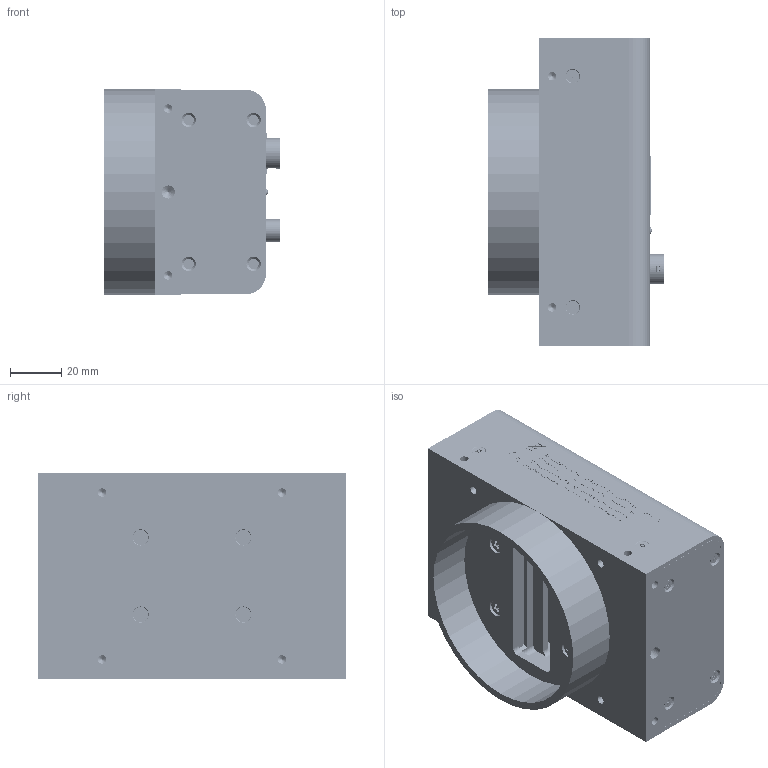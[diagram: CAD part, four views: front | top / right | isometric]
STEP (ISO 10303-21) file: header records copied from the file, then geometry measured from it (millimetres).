
FILE_DESCRIPTION (( 'STEP AP214' ), '1' );
FILE_NAME ('C7-5149-00-43／RMSL8K12GE／外観モデル.STEP', '2019-04-16T03:04:42', ( '' ), ( '' ), 'SwSTEP 2.0', 'SolidWorks 2016', '' );
FILE_SCHEMA (( 'AUTOMOTIVE_DESIGN' ));
Length unit declared in the file: millimetre
Products named in the file (42): 基板^C5-1043-01-42／XCM80125SHGIG用中継基板_PCB-XCM80125SHGIG-C00#F; C5-1043-01-42／XCM80125SHGIG用中継基板_PCB-XCM80125SHGIG-C00#F; ナット^C5-5180-00-43_12／コネクタ_HR10G-10R-12PB; C5-5178-00-43／スルーホールタップ_TH-0.8-5.0-M2.6; 基板^C5-1038-02-37／XCM20GIG用端子基板_PCB-XCM20GIG-T01#F-XCM20GIG; C5-5020-00-40_06／サラネジ M2X06 SUS_SFBJ2-6; C5-5180-00-43_12／コネクタ_HR10G-10R-12PB; C5-5145-00-43／CMOS 8k Line B&W ImageSensor_DR8K7_Invar_B&W_BM_V5.0; C5-5086-00-43_07／スペーサ(六角)_BSB-2607E; C4-1058-00-42／フロントパネル; 基板^C5-1072-00-42／XCM20SHGIG用ﾒｲﾝ基板_PCB-XCM20SHGIG-M00#F-XCM20SHGIG; C5-5176-00-43／2mmﾋﾟｯﾁ・ﾚｾﾌﾟﾀｸﾙ_DF3A-2P-2DSA; C5-5094-00-43_6／コネクタ_HR10G-7R-6PB; C5-5066-00-44／コネクタ_54477-1208; C5-5173-00-43／ﾊﾟﾙｽﾄﾗﾝｽ内蔵RJ45ｺﾈｸﾀ_V890-1AX1-A1; C5-5177-00-43／0.8mmﾋﾟｯﾁ基板対基板ｺﾈｸﾀ_FX6-20S-0.8SV; C5-5091-00-43_10／コネクタ_DF11-10DP-2DS; コネクタ^C5-5094-00-43_6／コネクタ_HR10G-7R-6PB; C4-1098-00-41／放熱板; ナット^C5-5094-00-43_6／コネクタ_HR10G-7R-6PB; C5-5172-00-43／0.8mmﾋﾟｯﾁ基板対基板ｺﾈｸﾀ_FX6-20P-0.8SV2; コネクタ^C5-5180-00-43_12／コネクタ_HR10G-10R-12PB; 菊座^C5-5180-00-43_12／コネクタ_HR10G-10R-12PB; C4-1042-02-30／カメラ鏡筒; C5-1072-00-42乛XCM20SHGIG梡也輮顢耞PCB-XCM20SHGIG-M00#F-XCM20SHGIG; C5-5012-00-40_06／座付きなべ頭小ねじ（P=4) M2.6X06 SUS_CSPPNZP-SUS-M2.6-6; C5-5170-00-43／2mmﾋﾟｯﾁ・ﾚｾﾌﾟﾀｸﾙ_DF3-2S-2DSA; C5-5019-00-40_06／サラネジ M2.6X06 SUS_SFBJ2.6-6; C5-5099-00-43／発光ダイオード_SPR-39MVWF; C5-5138-00-43_12／LED用スペーサー_LM-12; C5-5021-00-40_10／サラネジ M3X10 SUS_SFBJ3-10; 菊座^C5-5094-00-43_6／コネクタ_HR10G-7R-6PB; 基板^C5-5145-00-43／CMOS 8k Line B&W ImageSensor_DR8K7_Invar_B&W_BM_V5.0; C5-5042-00-43／ﾋﾟﾝ・ｻﾗ6-ﾛﾌﾞﾎﾞﾙﾄ_M2.6X6(SUS); C7-5149-00-43／RMSL8K12GE／外観モデル; C5-5115-00-43／コネクタ_55339-1208; C5-5086-00-43_06／スペーサ(六角)_BSB-2606E; C4-1060-00-42／背面カバー; C4-1059-00-42／側面パネル; C5-1038-02-37／XCM20GIG用端子基板_PCB-XCM20GIG-T01#F-XCM20GIG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
Assembly tree (72 placements, depth 3):
  C7-5149-00-43／RMSL8K12GE／外観モデル
    C4-1042-02-30／カメラ鏡筒
    C4-1058-00-42／フロントパネル
    C4-1059-00-42／側面パネル  x2
    C4-1060-00-42／背面カバー
    C4-1098-00-41／放熱板
    C5-5094-00-43_6／コネクタ_HR10G-7R-6PB
      コネクタ^C5-5094-00-43_6／コネクタ_HR10G-7R-6PB
      菊座^C5-5094-00-43_6／コネクタ_HR10G-7R-6PB
      ナット^C5-5094-00-43_6／コネクタ_HR10G-7R-6PB
    C5-5180-00-43_12／コネクタ_HR10G-10R-12PB
      コネクタ^C5-5180-00-43_12／コネクタ_HR10G-10R-12PB
      菊座^C5-5180-00-43_12／コネクタ_HR10G-10R-12PB
      ナット^C5-5180-00-43_12／コネクタ_HR10G-10R-12PB
    C5-5012-00-40_06／座付きなべ頭小ねじ（P=4) M2.6X06 SUS_CSPPNZP-SUS-M2.6-6  x8
    C5-5019-00-40_06／サラネジ M2.6X06 SUS_SFBJ2.6-6  x2
    C5-5020-00-40_06／サラネジ M2X06 SUS_SFBJ2-6  x8
    C5-5021-00-40_10／サラネジ M3X10 SUS_SFBJ3-10  x4
    C5-5042-00-43／ﾋﾟﾝ・ｻﾗ6-ﾛﾌﾞﾎﾞﾙﾄ_M2.6X6(SUS)  x5
    C5-5086-00-43_06／スペーサ(六角)_BSB-2606E  x2
    C5-5086-00-43_07／スペーサ(六角)_BSB-2607E  x4
    C5-1038-02-37／XCM20GIG用端子基板_PCB-XCM20GIG-T01#F-XCM20GIG
      基板^C5-1038-02-37／XCM20GIG用端子基板_PCB-XCM20GIG-T01#F-XCM20GIG
      C5-5177-00-43／0.8mmﾋﾟｯﾁ基板対基板ｺﾈｸﾀ_FX6-20S-0.8SV
      C5-5178-00-43／スルーホールタップ_TH-0.8-5.0-M2.6
    C5-1043-01-42／XCM80125SHGIG用中継基板_PCB-XCM80125SHGIG-C00#F
      基板^C5-1043-01-42／XCM80125SHGIG用中継基板_PCB-XCM80125SHGIG-C00#F
      C5-5091-00-43_10／コネクタ_DF11-10DP-2DS
      C5-5175-00-43_2／ピッチコネクタ_FX8C-100P-SV2
      C5-5176-00-43／2mmﾋﾟｯﾁ・ﾚｾﾌﾟﾀｸﾙ_DF3A-2P-2DSA
      C5-5066-00-44／コネクタ_54477-1208  x2
    C5-1072-00-42乛XCM20SHGIG梡也輮顢耞PCB-XCM20SHGIG-M00#F-XCM20SHGIG
      基板^C5-1072-00-42／XCM20SHGIG用ﾒｲﾝ基板_PCB-XCM20SHGIG-M00#F-XCM20SHGIG
      C5-5091-00-43_10／コネクタ_DF11-10DP-2DS  x2
      C5-5099-00-43／発光ダイオード_SPR-39MVWF
      C5-5138-00-43_12／LED用スペーサー_LM-12
      C5-5170-00-43／2mmﾋﾟｯﾁ・ﾚｾﾌﾟﾀｸﾙ_DF3-2S-2DSA
      C5-5171-00-43／ピッチコネクタ_FX8C-100S-SV
      C5-5172-00-43／0.8mmﾋﾟｯﾁ基板対基板ｺﾈｸﾀ_FX6-20P-0.8SV2
      C5-5173-00-43／ﾊﾟﾙｽﾄﾗﾝｽ内蔵RJ45ｺﾈｸﾀ_V890-1AX1-A1
    C5-5145-00-43／CMOS 8k Line B&W ImageSensor_DR8K7_Invar_B&W_BM_V5.0
      基板^C5-5145-00-43／CMOS 8k Line B&W ImageSensor_DR8K7_Invar_B&W_BM_V5.0
      C5-5115-00-43／コネクタ_55339-1208  x2
Bounding box: 68.55 x 120 x 80 mm (x, y, z)
Volume: 253234.9 mm3; surface area: 153442.4 mm2
Topology: 88 solids, 93 shells, 31018 faces, 90401 edges, 57780 vertices
Faces by surface type: plane 26141, bspline 2676, cylinder 1914, cone 269, torus 16, sphere 2
Full cylindrical faces by diameter (mm): 0.19 x1, 0.4 x15, 0.5 x14, 0.6 x2, 0.8 x2, 0.89 x10, 0.9 x4, 0.95 x2, 1 x5, 1.2 x2, 1.5 x5, 1.6 x6, 2 x9, 2.2 x25, 2.288 x8, 2.5 x8, 2.6 x22, 2.8 x19, 3 x4, 3.1 x2, 3.25 x2, 3.3 x12, 3.4 x4, 3.5 x1, 3.8 x1, 4 x12, 4.5 x9, 4.8 x8, 5 x8, 5.105 x1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
Entity records: 708891 total; most frequent: CARTESIAN_POINT 207037, ORIENTED_EDGE 112506, DIRECTION 87588, EDGE_CURVE 56253, LINE 47972, VECTOR 47972, VERTEX_POINT 36421, EDGE_LOOP 21176
